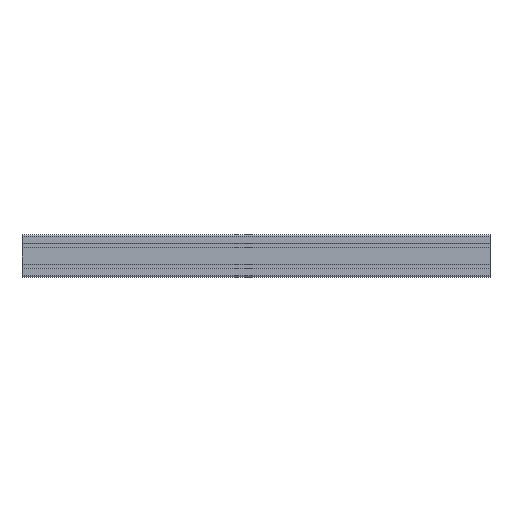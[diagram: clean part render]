
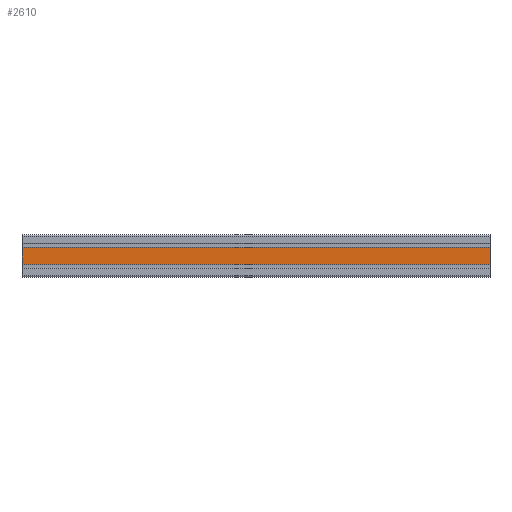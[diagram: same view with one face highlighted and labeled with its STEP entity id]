
A CAD part, top view. The second image highlights one B-rep face of the part: STEP entity #2610.
In plain terms, the highlighted planar face has unit normal (0, 0, 1).
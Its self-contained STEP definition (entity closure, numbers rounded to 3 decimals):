
#297 = EDGE_CURVE ( 'NONE', #1198, #10223, #6133, .T. ) ;
#321 = DIRECTION ( 'NONE',  ( 0., 0., -1. ) ) ;
#358 = VECTOR ( 'NONE', #7173, 1000. ) ;
#502 = ORIENTED_EDGE ( 'NONE', *, *, #6125, .F. ) ;
#677 = DIRECTION ( 'NONE',  ( 0., 1., 0. ) ) ;
#733 = FACE_OUTER_BOUND ( 'NONE', #5085, .T. ) ;
#1198 = VERTEX_POINT ( 'NONE', #8874 ) ;
#2058 = CARTESIAN_POINT ( 'NONE',  ( 0., -18.1, 45. ) ) ;
#2610 = ADVANCED_FACE ( 'NONE', ( #733 ), #7849, .F. ) ;
#2664 = AXIS2_PLACEMENT_3D ( 'NONE', #7010, #321, #677 ) ;
#3056 = VERTEX_POINT ( 'NONE', #5119 ) ;
#4061 = VERTEX_POINT ( 'NONE', #4847 ) ;
#4308 = DIRECTION ( 'NONE',  ( -1., 0., 0. ) ) ;
#4688 = VECTOR ( 'NONE', #5144, 1000. ) ;
#4847 = CARTESIAN_POINT ( 'NONE',  ( 1000., 18.1, 45. ) ) ;
#5085 = EDGE_LOOP ( 'NONE', ( #5250, #7807, #502, #9754 ) ) ;
#5119 = CARTESIAN_POINT ( 'NONE',  ( 0., 18.1, 45. ) ) ;
#5144 = DIRECTION ( 'NONE',  ( 0., -1., 0. ) ) ;
#5250 = ORIENTED_EDGE ( 'NONE', *, *, #7252, .T. ) ;
#6054 = LINE ( 'NONE', #9743, #4688 ) ;
#6125 = EDGE_CURVE ( 'NONE', #4061, #1198, #10160, .T. ) ;
#6133 = LINE ( 'NONE', #7826, #358 ) ;
#7010 = CARTESIAN_POINT ( 'NONE',  ( 1000., 18.1, 45. ) ) ;
#7173 = DIRECTION ( 'NONE',  ( -1., 0., 0. ) ) ;
#7252 = EDGE_CURVE ( 'NONE', #3056, #10223, #6054, .T. ) ;
#7498 = DIRECTION ( 'NONE',  ( 0., -1., 0. ) ) ;
#7807 = ORIENTED_EDGE ( 'NONE', *, *, #297, .F. ) ;
#7826 = CARTESIAN_POINT ( 'NONE',  ( 1000., -18.1, 45. ) ) ;
#7849 = PLANE ( 'NONE',  #2664 ) ;
#7852 = VECTOR ( 'NONE', #4308, 1000. ) ;
#8045 = CARTESIAN_POINT ( 'NONE',  ( 1000., 18.1, 45. ) ) ;
#8874 = CARTESIAN_POINT ( 'NONE',  ( 1000., -18.1, 45. ) ) ;
#9626 = LINE ( 'NONE', #10594, #7852 ) ;
#9743 = CARTESIAN_POINT ( 'NONE',  ( 0., 18.1, 45. ) ) ;
#9754 = ORIENTED_EDGE ( 'NONE', *, *, #11217, .T. ) ;
#9899 = VECTOR ( 'NONE', #7498, 1000. ) ;
#10160 = LINE ( 'NONE', #8045, #9899 ) ;
#10223 = VERTEX_POINT ( 'NONE', #2058 ) ;
#10594 = CARTESIAN_POINT ( 'NONE',  ( 1000., 18.1, 45. ) ) ;
#11217 = EDGE_CURVE ( 'NONE', #4061, #3056, #9626, .T. ) ;
